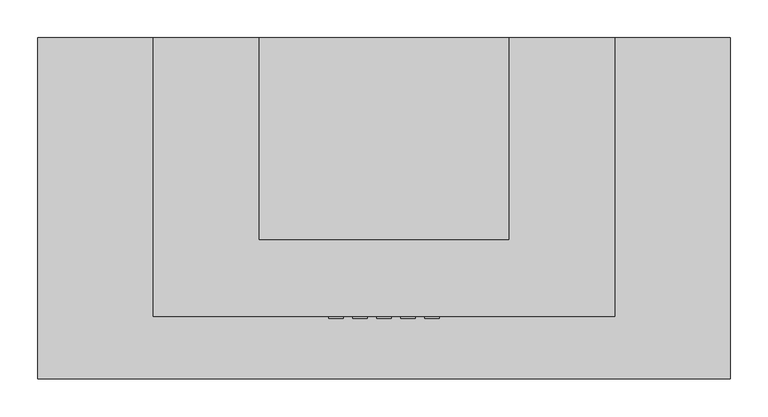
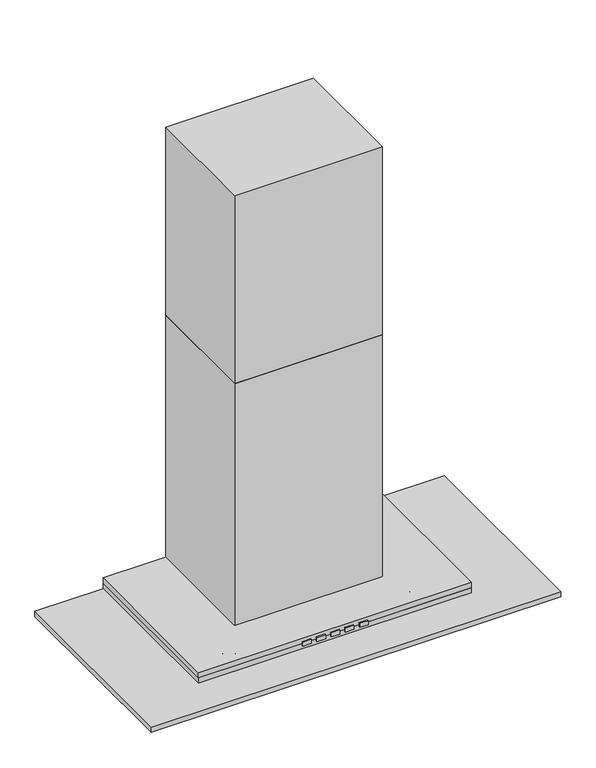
"""IFC4 building model written with IfcOpenShell, lengths in millimetres: proxy geometry, Campana rectangular - muro : Campana rectangular - muro."""

from ifc_helpers import new_model, si_unit, point, frame, frame_2d, origin, place, context, project, spatial, polyline, circle_curve, ellipse_curve, trimmed, segment, composite_curve, outline, extrude, source, transform, mapped, element, save
from ifc_brep_helpers import plane_surface, cylinder_surface, revolved_surface, advanced_brep


def specialty_equipment_e95493f8(model_context):
    return source(origin(), model_context, "Body", "SolidModel", [
        extrude(outline(polyline([(-9.525, -234.95), (9.525, -234.95), (9.525, -237.6432213), (-9.525, -237.6432213), (-9.525, -234.95)])), frame((0.0, 0.0, 1366.8375), z_axis=(0.0, 0.0, 1.0), x_axis=(1.0, 0.0, 0.0)), (0.0, 0.0, 1.0), 9.525),
        extrude(outline(polyline([(22.225, -234.95), (41.275, -234.95), (41.275, -237.6432213), (22.225, -237.6432213), (22.225, -234.95)])), frame((0.0, 0.0, 1366.8375), z_axis=(0.0, 0.0, 1.0), x_axis=(1.0, 0.0, 0.0)), (0.0, 0.0, 1.0), 9.525),
        extrude(outline(polyline([(53.975, -234.95), (73.025, -234.95), (73.025, -237.6432213), (53.975, -237.6432213), (53.975, -234.95)])), frame((0.0, 0.0, 1366.8375), z_axis=(0.0, 0.0, 1.0), x_axis=(1.0, 0.0, 0.0)), (0.0, 0.0, 1.0), 9.525),
        extrude(outline(polyline([(-41.275, -234.95), (-22.225, -234.95), (-22.225, -237.6432213), (-41.275, -237.6432213), (-41.275, -234.95)])), frame((0.0, 0.0, 1366.8375), z_axis=(0.0, 0.0, 1.0), x_axis=(1.0, 0.0, 0.0)), (0.0, 0.0, 1.0), 9.525),
        extrude(outline(polyline([(-73.025, -234.95), (-53.975, -234.95), (-53.975, -237.6432213), (-73.025, -237.6432213), (-73.025, -234.95)])), frame((0.0, 0.0, 1366.8375), z_axis=(0.0, 0.0, 1.0), x_axis=(1.0, 0.0, 0.0)), (0.0, 0.0, 1.0), 9.525),
        advanced_brep(
        [(-183.6619324, -187.5094756, 1346.2), (-234.4619324, -187.5094756, 1346.2), (-247.1619324, -187.5094756, 1346.2), (-170.9619324, -187.5094756, 1346.2), (-183.6619324, -187.5094756, 1372.6673942), (-234.4619324, -187.5094756, 1372.6673942), (-209.0619324, -187.5094756, 1372.6673942), (-186.4738453, -187.5094756, 1347.6532394), (-231.6500195, -187.5094756, 1347.6532394), (-209.0619324, -187.5094756, 1365.25), (-186.4738453, -187.5094756, 1344.6589682), (-231.6500195, -187.5094756, 1344.6589682), (-170.9619324, -187.5094756, 1344.6589682), (-247.1619324, -187.5094756, 1344.6589682)],
        [
            (0, 1, circle_curve(frame((-209.0619324, -187.5094756, 1346.2), z_axis=(0.0, 0.0, -1.0), x_axis=(-1.0, 0.0, 0.0)), 25.4)),
            (1, 2),
            (2, 3, circle_curve(frame((-209.0619324, -187.5094756, 1346.2), z_axis=(0.0, 0.0, 1.0), x_axis=(-1.0, 0.0, 0.0)), 38.1)),
            (3, 0),
            (1, 0, circle_curve(frame((-209.0619324, -187.5094756, 1346.2), z_axis=(0.0, 0.0, -1.0), x_axis=(-1.0, 0.0, 0.0)), 25.4)),
            (3, 2, circle_curve(frame((-209.0619324, -187.5094756, 1346.2), z_axis=(0.0, 0.0, 1.0), x_axis=(-1.0, 0.0, 0.0)), 38.1)),
            (4, 5, circle_curve(frame((-209.0619324, -187.5094756, 1372.6673942), z_axis=(0.0, 0.0, -1.0), x_axis=(-1.0, 0.0, 0.0)), 25.4)),
            (5, 1),
            (0, 4),
            (5, 4, circle_curve(frame((-209.0619324, -187.5094756, 1372.6673942), z_axis=(0.0, 0.0, -1.0), x_axis=(-1.0, 0.0, 0.0)), 25.4)),
            (6, 5),
            (4, 6),
            (7, 8, circle_curve(frame((-209.0619324, -187.5094756, 1347.6532394), z_axis=(0.0, 0.0, -1.0), x_axis=(-1.0, 0.0, 0.0)), 22.5880871)),
            (8, 9, circle_curve(frame((-207.8094645, -187.5094756, 1340.3462864), z_axis=(0.0, 1.0, 0.0), x_axis=(1.0, 0.0, 0.0)), 24.9351886)),
            (9, 7, circle_curve(frame((-210.3144003, -187.5094756, 1340.3462864), z_axis=(0.0, 1.0, 0.0), x_axis=(-1.0, 0.0, 0.0)), 24.9351886)),
            (8, 7, circle_curve(frame((-209.0619324, -187.5094756, 1347.6532394), z_axis=(0.0, 0.0, -1.0), x_axis=(-1.0, 0.0, 0.0)), 22.5880871)),
            (10, 11, circle_curve(frame((-209.0619324, -187.5094756, 1344.6589682), z_axis=(0.0, 0.0, -1.0), x_axis=(-1.0, 0.0, 0.0)), 22.5880871)),
            (11, 8),
            (7, 10),
            (11, 10, circle_curve(frame((-209.0619324, -187.5094756, 1344.6589682), z_axis=(0.0, 0.0, -1.0), x_axis=(-1.0, 0.0, 0.0)), 22.5880871)),
            (12, 13, circle_curve(frame((-209.0619324, -187.5094756, 1344.6589682), z_axis=(0.0, 0.0, -1.0), x_axis=(-1.0, 0.0, 0.0)), 38.1)),
            (13, 11),
            (10, 12),
            (13, 12, circle_curve(frame((-209.0619324, -187.5094756, 1344.6589682), z_axis=(0.0, 0.0, -1.0), x_axis=(-1.0, 0.0, 0.0)), 38.1)),
            (2, 13),
            (12, 3),
        ],
        [
            plane_surface(frame((-209.0619324, -187.5094756, 1346.2), z_axis=(0.0, 0.0, 1.0), x_axis=(-1.0, 0.0, 0.0))),
            cylinder_surface(frame((-209.0619324, -187.5094756, 1346.2), z_axis=(0.0, 0.0, 1.0), x_axis=(-1.0, 0.0, 0.0)), 25.4),
            plane_surface(frame((-209.0619324, -187.5094756, 1372.6673942), z_axis=(0.0, 0.0, 1.0), x_axis=(-1.0, 0.0, 0.0))),
            revolved_surface(trimmed(ellipse_curve(frame((-207.8094645, -187.5094756, 1340.3462864), z_axis=(0.0, -1.0, 0.0), x_axis=(1.0, 0.0, 0.0)), 24.9351886, 24.9351886), [point((-209.0619324, -187.5094756, 1365.25))], [point((-231.6500195, -187.5094756, 1347.6532394))], True, "CARTESIAN"), (-209.0619324, -187.5094756, 1346.2), (0.0, 0.0, 1.0)),
            revolved_surface(polyline([(-231.65001949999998, -187.5094756, 1347.6532394), (-231.65001949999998, -187.5094756, 1344.6589682)]), (-209.0619324, -187.5094756, 1346.2), (0.0, 0.0, 1.0)),
            plane_surface(frame((-209.0619324, -187.5094756, 1344.6589682), z_axis=(0.0, 0.0, -1.0), x_axis=(-1.0, 0.0, 0.0))),
            cylinder_surface(frame((-209.0619324, -187.5094756, 1346.2), z_axis=(0.0, 0.0, 1.0), x_axis=(-1.0, 0.0, 0.0)), 38.1),
        ],
        [
            (0, [[1, 2, 3, 4]]),
            (0, [[5, -4, 6, -2]]),
            (1, [[7, 8, -1, 9]]),
            (1, [[10, -9, -5, -8]]),
            (2, [[11, -7, 12]]),
            (2, [[-12, -10, -11]]),
            (3, [[13, 14, 15]]),
            (3, [[16, -15, -14]]),
            (4, [[17, 18, -13, 19]]),
            (4, [[20, -19, -16, -18]]),
            (5, [[21, 22, -17, 23]]),
            (5, [[24, -23, -20, -22]]),
            (6, [[-3, 25, -21, 26]]),
            (6, [[-6, -26, -24, -25]]),
        ],
    ),
        extrude(outline(polyline([(1358.9, 241.3), (1358.9, -241.3), (1346.2, -241.3), (1346.2, -236.5375), (1352.55, -236.5375), (1352.55, -233.3625), (1349.375, -233.3625), (1349.375, -230.1875), (1352.55, -230.1875), (1352.55, -227.0125), (1349.375, -227.0125), (1349.375, -223.8375), (1352.55, -223.8375), (1352.55, -220.6625), (1349.375, -220.6625), (1349.375, -217.4875), (1352.55, -217.4875), (1352.55, -214.3125), (1349.375, -214.3125), (1349.375, -211.1375), (1352.55, -211.1375), (1352.55, -207.9625), (1349.375, -207.9625), (1349.375, -204.7875), (1352.55, -204.7875), (1352.55, -201.6125), (1349.375, -201.6125), (1349.375, -198.4375), (1352.55, -198.4375), (1352.55, -195.2625), (1349.375, -195.2625), (1349.375, -192.0875), (1352.55, -192.0875), (1352.55, -188.9125), (1349.375, -188.9125), (1349.375, -185.7375), (1352.55, -185.7375), (1352.55, -182.5625), (1349.375, -182.5625), (1349.375, -179.3875), (1352.55, -179.3875), (1352.55, -176.2125), (1349.375, -176.2125), (1349.375, -173.0375), (1352.55, -173.0375), (1352.55, -169.8625), (1349.375, -169.8625), (1349.375, -166.6875), (1352.55, -166.6875), (1352.55, -163.5125), (1349.375, -163.5125), (1349.375, -160.3375), (1352.55, -160.3375), (1352.55, -157.1625), (1349.375, -157.1625), (1349.375, -153.9875), (1352.55, -153.9875), (1352.55, -150.8125), (1349.375, -150.8125), (1349.375, -147.6375), (1352.55, -147.6375), (1352.55, -144.4625), (1349.375, -144.4625), (1349.375, -141.2875), (1352.55, -141.2875), (1352.55, -138.1125), (1349.375, -138.1125), (1349.375, -134.9375), (1352.55, -134.9375), (1352.55, -131.7625), (1349.375, -131.7625), (1349.375, -128.5875), (1352.55, -128.5875), (1352.55, -125.4125), (1349.375, -125.4125), (1349.375, -122.2375), (1352.55, -122.2375), (1352.55, -119.0625), (1349.375, -119.0625), (1349.375, -115.8875), (1352.55, -115.8875), (1352.55, -112.7125), (1349.375, -112.7125), (1349.375, -109.5375), (1352.55, -109.5375), (1352.55, -106.3625), (1349.375, -106.3625), (1349.375, -103.1875), (1352.55, -103.1875), (1352.55, -100.0125), (1349.375, -100.0125), (1349.375, -96.8375), (1352.55, -96.8375), (1352.55, -93.6625), (1349.375, -93.6625), (1349.375, -90.4875), (1352.55, -90.4875), (1352.55, -87.3125), (1349.375, -87.3125), (1349.375, -84.1375), (1352.55, -84.1375), (1352.55, -80.9625), (1349.375, -80.9625), (1349.375, -77.7875), (1352.55, -77.7875), (1352.55, -74.6125), (1349.375, -74.6125), (1349.375, -71.4375), (1352.55, -71.4375), (1352.55, -68.2625), (1349.375, -68.2625), (1349.375, -65.0875), (1352.55, -65.0875), (1352.55, -61.9125), (1349.375, -61.9125), (1349.375, -58.7375), (1352.55, -58.7375), (1352.55, -55.5625), (1349.375, -55.5625), (1349.375, -52.3875), (1352.55, -52.3875), (1352.55, -49.2125), (1349.375, -49.2125), (1349.375, -46.0375), (1352.55, -46.0375), (1352.55, -42.8625), (1349.375, -42.8625), (1349.375, -39.6875), (1352.55, -39.6875), (1352.55, -36.5125), (1349.375, -36.5125), (1349.375, -33.3375), (1352.55, -33.3375), (1352.55, -30.1625), (1349.375, -30.1625), (1349.375, -26.9875), (1352.55, -26.9875), (1352.55, -23.8125), (1349.375, -23.8125), (1349.375, -20.6375), (1352.55, -20.6375), (1352.55, -17.4625), (1349.375, -17.4625), (1349.375, -14.2875), (1352.55, -14.2875), (1352.55, -11.1125), (1349.375, -11.1125), (1349.375, -7.9375), (1352.55, -7.9375), (1352.55, -4.7625), (1346.2, -4.7625), (1346.2, 4.7625), (1352.55, 4.7625), (1352.55, 7.9375), (1349.375, 7.9375), (1349.375, 11.1125), (1352.55, 11.1125), (1352.55, 14.2875), (1349.375, 14.2875), (1349.375, 17.4625), (1352.55, 17.4625), (1352.55, 20.6375), (1349.375, 20.6375), (1349.375, 23.8125), (1352.55, 23.8125), (1352.55, 26.9875), (1349.375, 26.9875), (1349.375, 30.1625), (1352.55, 30.1625), (1352.55, 33.3375), (1349.375, 33.3375), (1349.375, 36.5125), (1352.55, 36.5125), (1352.55, 39.6875), (1349.375, 39.6875), (1349.375, 42.8625), (1352.55, 42.8625), (1352.55, 46.0375), (1349.375, 46.0375), (1349.375, 49.2125), (1352.55, 49.2125), (1352.55, 52.3875), (1349.375, 52.3875), (1349.375, 55.5625), (1352.55, 55.5625), (1352.55, 58.7375), (1349.375, 58.7375), (1349.375, 61.9125), (1352.55, 61.9125), (1352.55, 65.0875), (1349.375, 65.0875), (1349.375, 68.2625), (1352.55, 68.2625), (1352.55, 71.4375), (1349.375, 71.4375), (1349.375, 74.6125), (1352.55, 74.6125), (1352.55, 77.7875), (1349.375, 77.7875), (1349.375, 80.9625), (1352.55, 80.9625), (1352.55, 84.1375), (1349.375, 84.1375), (1349.375, 87.3125), (1352.55, 87.3125), (1352.55, 90.4875), (1349.375, 90.4875), (1349.375, 93.6625), (1352.55, 93.6625), (1352.55, 96.8375), (1349.375, 96.8375), (1349.375, 100.0125), (1352.55, 100.0125), (1352.55, 103.1875), (1349.375, 103.1875), (1349.375, 106.3625), (1352.55, 106.3625), (1352.55, 109.5375), (1349.375, 109.5375), (1349.375, 112.7125), (1352.55, 112.7125), (1352.55, 115.8875), (1349.375, 115.8875), (1349.375, 119.0625), (1352.55, 119.0625), (1352.55, 122.2375), (1349.375, 122.2375), (1349.375, 125.4125), (1352.55, 125.4125), (1352.55, 128.5875), (1349.375, 128.5875), (1349.375, 131.7625), (1352.55, 131.7625), (1352.55, 134.9375), (1349.375, 134.9375), (1349.375, 138.1125), (1352.55, 138.1125), (1352.55, 141.2875), (1349.375, 141.2875), (1349.375, 144.4625), (1352.55, 144.4625), (1352.55, 147.6375), (1349.375, 147.6375), (1349.375, 150.8125), (1352.55, 150.8125), (1352.55, 153.9875), (1349.375, 153.9875), (1349.375, 157.1625), (1352.55, 157.1625), (1352.55, 160.3375), (1349.375, 160.3375), (1349.375, 163.5125), (1352.55, 163.5125), (1352.55, 166.6875), (1349.375, 166.6875), (1349.375, 169.8625), (1352.55, 169.8625), (1352.55, 173.0375), (1349.375, 173.0375), (1349.375, 176.2125), (1352.55, 176.2125), (1352.55, 179.3875), (1349.375, 179.3875), (1349.375, 182.5625), (1352.55, 182.5625), (1352.55, 185.7375), (1349.375, 185.7375), (1349.375, 188.9125), (1352.55, 188.9125), (1352.55, 192.0875), (1349.375, 192.0875), (1349.375, 195.2625), (1352.55, 195.2625), (1352.55, 198.4375), (1349.375, 198.4375), (1349.375, 201.6125), (1352.55, 201.6125), (1352.55, 204.7875), (1349.375, 204.7875), (1349.375, 207.9625), (1352.55, 207.9625), (1352.55, 211.1375), (1349.375, 211.1375), (1349.375, 214.3125), (1352.55, 214.3125), (1352.55, 217.4875), (1349.375, 217.4875), (1349.375, 220.6625), (1352.55, 220.6625), (1352.55, 223.8375), (1349.375, 223.8375), (1349.375, 227.0125), (1352.55, 227.0125), (1352.55, 230.1875), (1349.375, 230.1875), (1349.375, 233.3625), (1352.55, 233.3625), (1352.55, 236.5375), (1346.2, 236.5375), (1346.2, 241.3), (1358.9, 241.3)])), frame((0.0, -127.0, 0.0), z_axis=(0.0, 1.0, 0.0), x_axis=(0.0, 0.0, 1.0)), (0.0, 0.0, 1.0), 254.0),
        extrude(outline(polyline([(-304.8, 133.35), (304.8, 133.35), (304.8, -234.95), (-304.8, -234.95), (-304.8, 133.35)])), frame((0.0, 0.0, 1371.6), z_axis=(0.0, 0.0, 1.0), x_axis=(1.0, 0.0, 0.0)), (0.0, 0.0, 1.0), 12.7),
        advanced_brep(
        [(170.9619324, -187.5094756, 1344.6589682), (247.1619324, -187.5094756, 1344.6589682), (247.1619324, -187.5094756, 1346.2), (170.9619324, -187.5094756, 1346.2), (186.4738453, -187.5094756, 1344.6589682), (231.6500195, -187.5094756, 1344.6589682), (186.4738453, -187.5094756, 1347.6532394), (231.6500195, -187.5094756, 1347.6532394), (209.0619324, -187.5094756, 1365.25), (183.6619324, -187.5094756, 1372.6673942), (234.4619324, -187.5094756, 1372.6673942), (209.0619324, -187.5094756, 1372.6673942), (183.6619324, -187.5094756, 1346.2), (234.4619324, -187.5094756, 1346.2)],
        [
            (0, 1, circle_curve(frame((209.0619324, -187.5094756, 1344.6589682), z_axis=(0.0, 0.0, 1.0), x_axis=(1.0, 0.0, 0.0)), 38.1)),
            (1, 2),
            (2, 3, circle_curve(frame((209.0619324, -187.5094756, 1346.2), z_axis=(0.0, 0.0, -1.0), x_axis=(1.0, 0.0, 0.0)), 38.1)),
            (3, 0),
            (1, 0, circle_curve(frame((209.0619324, -187.5094756, 1344.6589682), z_axis=(0.0, 0.0, 1.0), x_axis=(1.0, 0.0, 0.0)), 38.1)),
            (3, 2, circle_curve(frame((209.0619324, -187.5094756, 1346.2), z_axis=(0.0, 0.0, -1.0), x_axis=(1.0, 0.0, 0.0)), 38.1)),
            (4, 5, circle_curve(frame((209.0619324, -187.5094756, 1344.6589682), z_axis=(0.0, 0.0, 1.0), x_axis=(1.0, 0.0, 0.0)), 22.5880871)),
            (5, 1),
            (0, 4),
            (5, 4, circle_curve(frame((209.0619324, -187.5094756, 1344.6589682), z_axis=(0.0, 0.0, 1.0), x_axis=(1.0, 0.0, 0.0)), 22.5880871)),
            (6, 7, circle_curve(frame((209.0619324, -187.5094756, 1347.6532394), z_axis=(0.0, 0.0, 1.0), x_axis=(1.0, 0.0, 0.0)), 22.5880871)),
            (7, 5),
            (4, 6),
            (7, 6, circle_curve(frame((209.0619324, -187.5094756, 1347.6532394), z_axis=(0.0, 0.0, 1.0), x_axis=(1.0, 0.0, 0.0)), 22.5880871)),
            (8, 7, circle_curve(frame((207.8094645, -187.5094756, 1340.3462864), z_axis=(0.0, 1.0, 0.0), x_axis=(-1.0, 0.0, 0.0)), 24.9351886)),
            (6, 8, circle_curve(frame((210.3144003, -187.5094756, 1340.3462864), z_axis=(0.0, 1.0, 0.0), x_axis=(1.0, 0.0, 0.0)), 24.9351886)),
            (9, 10, circle_curve(frame((209.0619324, -187.5094756, 1372.6673942), z_axis=(0.0, 0.0, 1.0), x_axis=(1.0, 0.0, 0.0)), 25.4)),
            (10, 11),
            (11, 9),
            (10, 9, circle_curve(frame((209.0619324, -187.5094756, 1372.6673942), z_axis=(0.0, 0.0, 1.0), x_axis=(1.0, 0.0, 0.0)), 25.4)),
            (12, 13, circle_curve(frame((209.0619324, -187.5094756, 1346.2), z_axis=(0.0, 0.0, 1.0), x_axis=(1.0, 0.0, 0.0)), 25.4)),
            (13, 10),
            (9, 12),
            (13, 12, circle_curve(frame((209.0619324, -187.5094756, 1346.2), z_axis=(0.0, 0.0, 1.0), x_axis=(1.0, 0.0, 0.0)), 25.4)),
            (2, 13),
            (12, 3),
        ],
        [
            cylinder_surface(frame((209.0619324, -187.5094756, 1346.2), z_axis=(0.0, 0.0, -1.0), x_axis=(1.0, 0.0, 0.0)), 38.1),
            plane_surface(frame((209.0619324, -187.5094756, 1344.6589682), z_axis=(0.0, 0.0, -1.0), x_axis=(1.0, 0.0, 0.0))),
            revolved_surface(polyline([(231.65001949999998, -187.5094756, 1344.6589682), (231.65001949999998, -187.5094756, 1347.6532394)]), (209.0619324, -187.5094756, 1346.2), (0.0, 0.0, -1.0)),
            revolved_surface(trimmed(ellipse_curve(frame((207.8094645, -187.5094756, 1340.3462864), z_axis=(0.0, -1.0, 0.0), x_axis=(-1.0, 0.0, 0.0)), 24.9351886, 24.9351886), [point((231.6500195, -187.5094756, 1347.6532394))], [point((209.0619324, -187.5094756, 1365.25))], True, "CARTESIAN"), (209.0619324, -187.5094756, 1346.2), (0.0, 0.0, -1.0)),
            plane_surface(frame((209.0619324, -187.5094756, 1372.6673942), z_axis=(0.0, 0.0, 1.0), x_axis=(1.0, 0.0, 0.0))),
            cylinder_surface(frame((209.0619324, -187.5094756, 1346.2), z_axis=(0.0, 0.0, -1.0), x_axis=(1.0, 0.0, 0.0)), 25.4),
            plane_surface(frame((209.0619324, -187.5094756, 1346.2), z_axis=(0.0, 0.0, 1.0), x_axis=(1.0, 0.0, 0.0))),
        ],
        [
            (0, [[1, 2, 3, 4]]),
            (0, [[5, -4, 6, -2]]),
            (1, [[7, 8, -1, 9]]),
            (1, [[10, -9, -5, -8]]),
            (2, [[11, 12, -7, 13]]),
            (2, [[14, -13, -10, -12]]),
            (3, [[15, -11, 16]]),
            (3, [[-16, -14, -15]]),
            (4, [[17, 18, 19]]),
            (4, [[20, -19, -18]]),
            (5, [[21, 22, -17, 23]]),
            (5, [[24, -23, -20, -22]]),
            (6, [[-3, 25, -21, 26]]),
            (6, [[-6, -26, -24, -25]]),
        ],
    ),
        extrude(outline(polyline([(-304.8, 133.35), (-304.8, -234.95), (304.8, -234.95), (304.8, 133.35), (457.2, 133.35), (457.2, -317.5), (-457.2, -317.5), (-457.2, 133.35), (-304.8, 133.35)])), frame((0.0, 0.0, 1346.2), z_axis=(0.0, 0.0, 1.0), x_axis=(1.0, 0.0, 0.0)), (0.0, 0.0, 1.0), 12.7),
        extrude(outline(polyline([(-304.8, 133.35), (304.8, 133.35), (304.8, -234.95), (-304.8, -234.95), (-304.8, 133.35)]), holes=[composite_curve([segment(trimmed(circle_curve(frame_2d((-209.0619324, -187.5094756)), 25.4), [point((-209.0619324, -162.1094756))], [point((-209.0619324, -212.9094756))], True, "CARTESIAN"), True, "CONTINUOUS"), segment(trimmed(circle_curve(frame_2d((-209.0619324, -187.5094756)), 25.4), [point((-209.0619324, -212.9094756))], [point((-209.0619324, -162.1094756))], True, "CARTESIAN"), True, "CONTINUOUS")], self_intersect=False), composite_curve([segment(trimmed(circle_curve(frame_2d((209.0619324, -187.5094756)), 25.4), [point((209.0619324, -162.1094756))], [point((209.0619324, -212.9094756))], True, "CARTESIAN"), True, "CONTINUOUS"), segment(trimmed(circle_curve(frame_2d((209.0619324, -187.5094756)), 25.4), [point((209.0619324, -212.9094756))], [point((209.0619324, -162.1094756))], True, "CARTESIAN"), True, "CONTINUOUS")], self_intersect=False), polyline([(241.3, -127.0), (241.3, 127.0), (-241.3, 127.0), (-241.3, -127.0), (241.3, -127.0)])]), frame((0.0, 0.0, 1346.2), z_axis=(0.0, 0.0, 1.0), x_axis=(1.0, 0.0, 0.0)), (0.0, 0.0, 1.0), 25.4),
        extrude(outline(polyline([(165.1, -133.35), (-165.1, -133.35), (-165.1, 133.35), (165.1, 133.35), (165.1, -133.35)])), frame((0.0, 0.0, 1384.3), z_axis=(0.0, 0.0, 1.0), x_axis=(1.0, 0.0, 0.0)), (0.0, 0.0, 1.0), 571.5),
        extrude(outline(polyline([(-165.1, 133.35), (165.1, 133.35), (165.1, -133.35), (-165.1, -133.35), (-165.1, 133.35)])), frame((0.0, 0.0, 1955.8), z_axis=(0.0, 0.0, 1.0), x_axis=(1.0, 0.0, 0.0)), (0.0, 0.0, 1.0), 444.2),
    ])


if __name__ == "__main__":
    model = new_model("IFC4")
    model_context = context("Model", 3, world=origin())
    ifc_project = project(units=[si_unit("LENGTHUNIT", "METRE", prefix="MILLI")], contexts=[model_context])
    site = spatial("IfcSite", under=ifc_project)
    building = spatial("IfcBuilding", under=site)
    placement = place(None, origin())
    specialty_equipment_shape = specialty_equipment_e95493f8(model_context)
    element("IfcBuildingElementProxy", 1, Name="Campana rectangular - muro : Campana rectangular - muro", ObjectType="Campana rectangular - muro : Campana rectangular - muro", at=placement, inside=building, context=model_context, shape_type="MappedRepresentation", body=[
        mapped(specialty_equipment_shape, transform((0.0, 0.0, 0.0), x_axis=(1.0, 0.0, 0.0), y_axis=(0.0, 1.0, 0.0), z_axis=(0.0, 0.0, 1.0))),
    ])
    save(model, "model.ifc")
